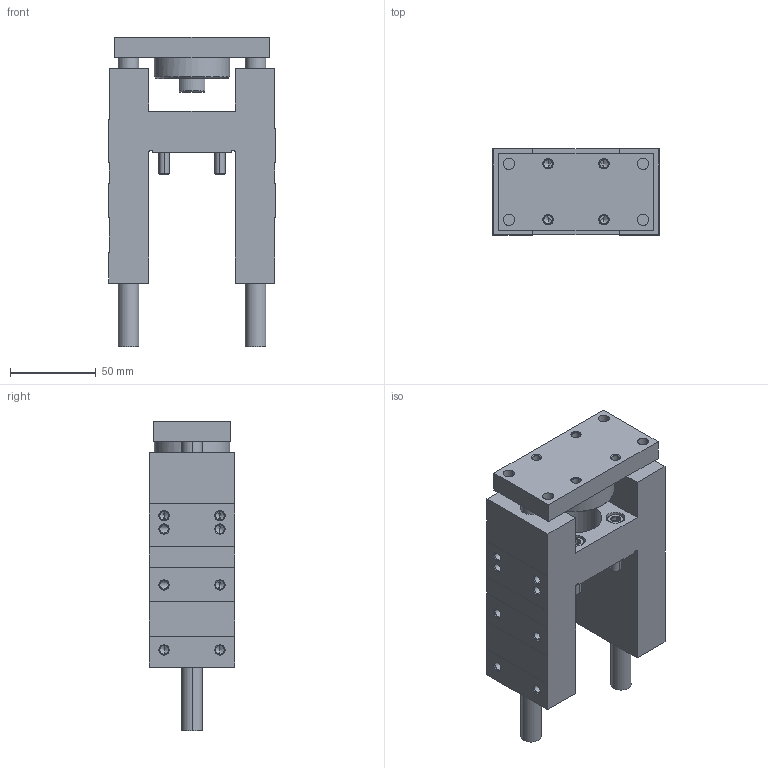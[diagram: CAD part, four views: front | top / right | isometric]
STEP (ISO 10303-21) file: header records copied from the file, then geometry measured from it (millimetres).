
FILE_DESCRIPTION (( 'STEP AP203' ), '1' );
FILE_NAME ('GB32-25.STEP', '2020-04-24T11:06:16', ( '' ), ( '' ), 'SwSTEP 2.0', 'SolidWorks 2019', '' );
FILE_SCHEMA (( 'CONFIG_CONTROL_DESIGN' ));
Length unit declared in the file: millimetre
Products named in the file (1): GB32-25
Bounding box: 97 x 50 x 180 mm (x, y, z)
Volume: 399591.2 mm3; surface area: 94241.4 mm2
Topology: 6 solids, 6 shells, 377 faces, 862 edges, 494 vertices
Faces by surface type: cone 154, plane 117, cylinder 106
Entity records: 11155 total; most frequent: CARTESIAN_POINT 2540, DIRECTION 1916, ORIENTED_EDGE 1660, EDGE_CURVE 830, AXIS2_PLACEMENT_3D 756, VERTEX_POINT 494, EDGE_LOOP 444, VECTOR 404
